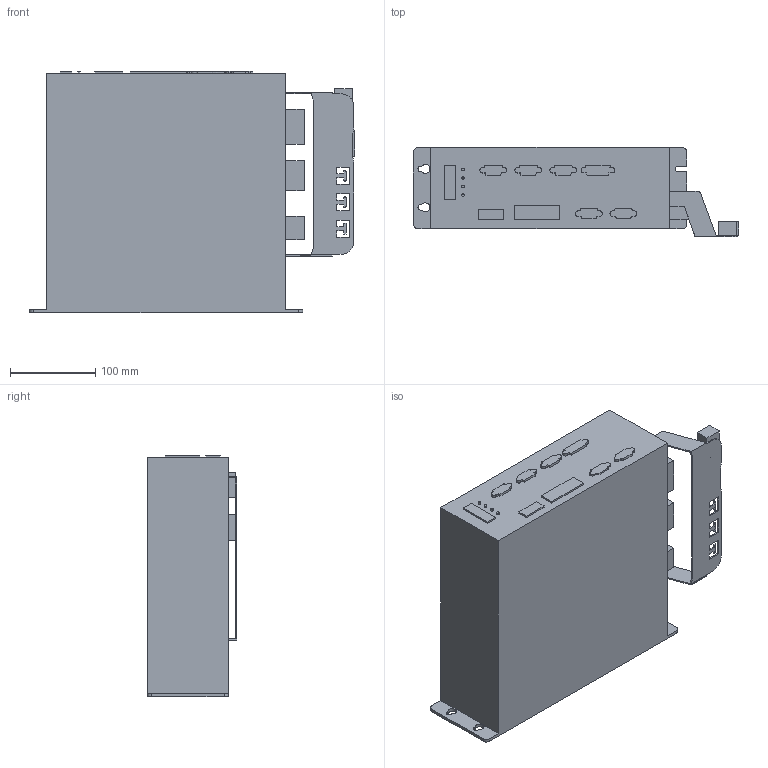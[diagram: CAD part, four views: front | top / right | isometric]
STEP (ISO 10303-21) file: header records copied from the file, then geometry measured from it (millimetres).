
FILE_DESCRIPTION((''),'2;1');
FILE_NAME('PRT0001','2014-07-25T',('kinco218'),(''),'PRO/ENGINEER BY PARAMETRIC TECHNOLOGY CORPORATION, 2010100','PRO/ENGINEER BY PARAMETRIC TECHNOLOGY CORPORATION, 2010100','');
FILE_SCHEMA(('CONFIG_CONTROL_DESIGN'));
Length unit declared in the file: millimetre
Products named in the file (1): PRT0001
Bounding box: 380.8 x 104.7 x 283.4 mm (x, y, z)
Volume: 7580770.4 mm3; surface area: 309259.2 mm2
Topology: 1 solids, 1 shells, 247 faces, 675 edges, 448 vertices
Faces by surface type: plane 175, cylinder 72
Entity records: 7921 total; most frequent: CARTESIAN_POINT 1482, ORIENTED_EDGE 1350, DIRECTION 1291, EDGE_CURVE 675, VECTOR 529, LINE 529, VERTEX_POINT 448, AXIS2_PLACEMENT_3D 381
